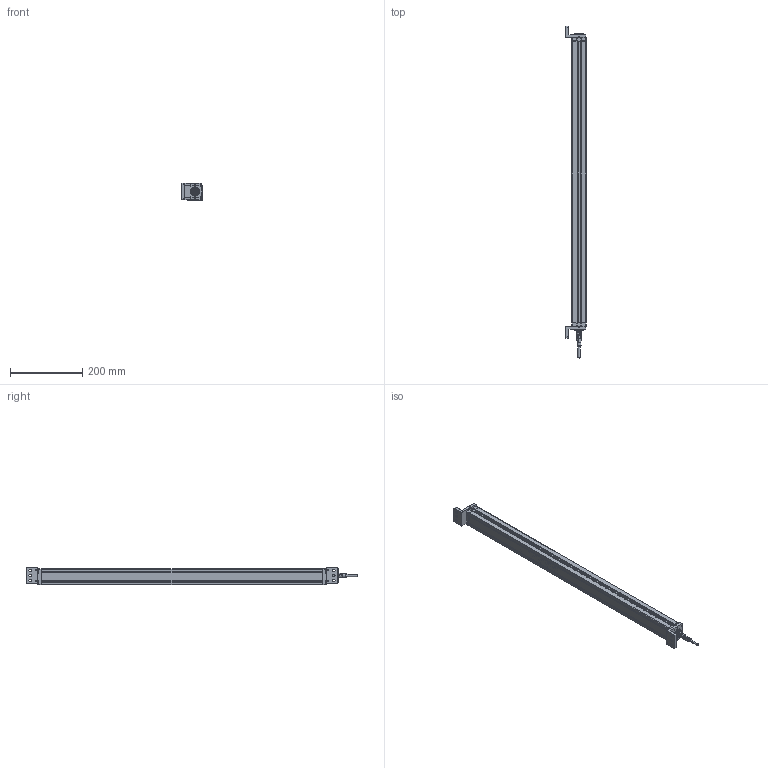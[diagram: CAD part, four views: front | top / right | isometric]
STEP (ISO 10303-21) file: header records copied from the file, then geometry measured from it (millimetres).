
FILE_DESCRIPTION (( 'STEP AP214' ), '1' );
FILE_NAME ('SH10 29.5in with Brackets Step.STEP', '2026-09-02T19:27:44', ( '' ), ( '' ), 'SwSTEP 2.0', 'SolidWorks 2025', '' );
FILE_SCHEMA (( 'AUTOMOTIVE_DESIGN' ));
Length unit declared in the file: millimetre
Products named in the file (4): SH10 29.5in with Brackets Step; 02-4017-00_V241.stp; 750 Solidworks; Cable Female End
Assembly tree (4 placements, depth 2):
  SH10 29.5in with Brackets Step
    750 Solidworks
    02-4017-00_V241.stp  x2
    Cable Female End
Bounding box: 56.2 x 918.64 x 48.75 mm (x, y, z)
Volume: 496361.2 mm3; surface area: 367744.3 mm2
Topology: 12 solids, 12 shells, 1215 faces, 3151 edges, 1991 vertices
Faces by surface type: cylinder 563, plane 411, bspline 143, torus 52, cone 46
Entity records: 51115 total; most frequent: CARTESIAN_POINT 12992, ORIENTED_EDGE 5752, DIRECTION 5678, EDGE_CURVE 2876, AXIS2_PLACEMENT_3D 2114, VERTEX_POINT 1843, VECTOR 1450, LINE 1450
